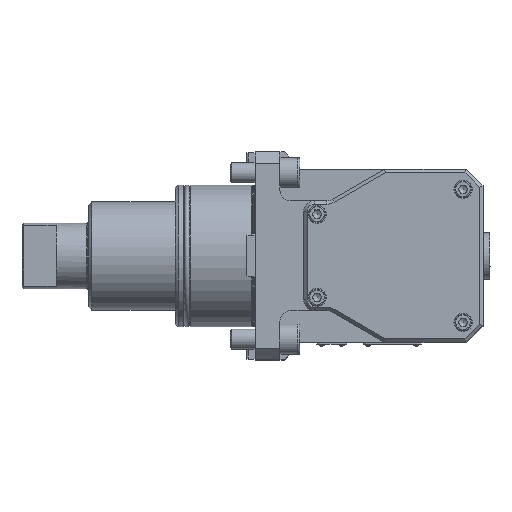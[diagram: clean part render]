
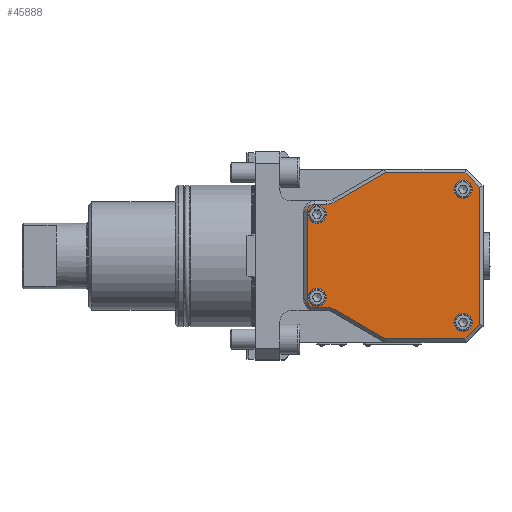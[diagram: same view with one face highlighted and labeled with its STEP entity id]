
A CAD part, top view. The second image highlights one B-rep face of the part: STEP entity #45888.
In plain terms, the highlighted planar face has unit normal (0, 0, 1).
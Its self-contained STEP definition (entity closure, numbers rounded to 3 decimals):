
#19514=VECTOR('',#31623,1.);
#19517=VECTOR('',#31628,1.);
#19518=VECTOR('',#31629,1.);
#19519=VECTOR('',#31630,1.);
#19520=VECTOR('',#31631,1.);
#19521=VECTOR('',#31632,1.);
#19522=VECTOR('',#31635,1.);
#19523=VECTOR('',#31638,1.);
#19524=VECTOR('',#31641,1.);
#19525=VECTOR('',#31644,1.);
#20632=LINE('',#35537,#19514);
#20635=LINE('',#35542,#19517);
#20636=LINE('',#35544,#19518);
#20637=LINE('',#35546,#19519);
#20638=LINE('',#35548,#19520);
#20639=LINE('',#35550,#19521);
#20640=LINE('',#35554,#19522);
#20641=LINE('',#35558,#19523);
#20642=LINE('',#35562,#19524);
#20643=LINE('',#35565,#19525);
#21977=ORIENTED_EDGE('',*,*,#27544,.F.);
#21978=ORIENTED_EDGE('',*,*,#27541,.F.);
#21979=ORIENTED_EDGE('',*,*,#27545,.F.);
#21980=ORIENTED_EDGE('',*,*,#27546,.F.);
#21981=ORIENTED_EDGE('',*,*,#27547,.F.);
#21982=ORIENTED_EDGE('',*,*,#27548,.F.);
#21983=ORIENTED_EDGE('',*,*,#27549,.F.);
#21984=ORIENTED_EDGE('',*,*,#27550,.F.);
#21985=ORIENTED_EDGE('',*,*,#27551,.F.);
#21986=ORIENTED_EDGE('',*,*,#27552,.F.);
#21987=ORIENTED_EDGE('',*,*,#27553,.F.);
#21988=ORIENTED_EDGE('',*,*,#27554,.F.);
#21989=ORIENTED_EDGE('',*,*,#27555,.F.);
#21990=ORIENTED_EDGE('',*,*,#27556,.F.);
#21991=ORIENTED_EDGE('',*,*,#27557,.F.);
#21992=ORIENTED_EDGE('',*,*,#27558,.F.);
#21993=ORIENTED_EDGE('',*,*,#27559,.F.);
#21994=ORIENTED_EDGE('',*,*,#27560,.F.);
#25553=CIRCLE('',#44058,8.5);
#25554=CIRCLE('',#44059,4.5);
#25555=CIRCLE('',#44060,4.5);
#25556=CIRCLE('',#44061,8.5);
#25557=CIRCLE('',#44062,5.5);
#25558=CIRCLE('',#44063,5.5);
#25559=CIRCLE('',#44064,5.5);
#25560=CIRCLE('',#44065,5.5);
#26224=VERTEX_POINT('',#35535);
#26225=VERTEX_POINT('',#35536);
#26226=VERTEX_POINT('',#35541);
#26227=VERTEX_POINT('',#35543);
#26228=VERTEX_POINT('',#35545);
#26229=VERTEX_POINT('',#35547);
#26230=VERTEX_POINT('',#35549);
#26231=VERTEX_POINT('',#35551);
#26232=VERTEX_POINT('',#35553);
#26233=VERTEX_POINT('',#35555);
#26234=VERTEX_POINT('',#35557);
#26235=VERTEX_POINT('',#35559);
#26236=VERTEX_POINT('',#35561);
#26237=VERTEX_POINT('',#35563);
#26238=VERTEX_POINT('',#35566);
#26239=VERTEX_POINT('',#35568);
#26240=VERTEX_POINT('',#35570);
#26241=VERTEX_POINT('',#35572);
#27541=EDGE_CURVE('',#26224,#26225,#20632,.T.);
#27544=EDGE_CURVE('',#26225,#26226,#20635,.T.);
#27545=EDGE_CURVE('',#26227,#26224,#20636,.T.);
#27546=EDGE_CURVE('',#26228,#26227,#20637,.T.);
#27547=EDGE_CURVE('',#26229,#26228,#20638,.T.);
#27548=EDGE_CURVE('',#26230,#26229,#20639,.T.);
#27549=EDGE_CURVE('',#26231,#26230,#25553,.T.);
#27550=EDGE_CURVE('',#26232,#26231,#20640,.T.);
#27551=EDGE_CURVE('',#26233,#26232,#25554,.T.);
#27552=EDGE_CURVE('',#26234,#26233,#20641,.T.);
#27553=EDGE_CURVE('',#26235,#26234,#25555,.T.);
#27554=EDGE_CURVE('',#26236,#26235,#20642,.T.);
#27555=EDGE_CURVE('',#26237,#26236,#25556,.T.);
#27556=EDGE_CURVE('',#26226,#26237,#20643,.T.);
#27557=EDGE_CURVE('',#26238,#26238,#25557,.T.);
#27558=EDGE_CURVE('',#26239,#26239,#25558,.T.);
#27559=EDGE_CURVE('',#26240,#26240,#25559,.T.);
#27560=EDGE_CURVE('',#26241,#26241,#25560,.T.);
#29328=EDGE_LOOP('',(#21977,#21978,#21979,#21980,#21981,#21982,#21983,#21984,
#21985,#21986,#21987,#21988,#21989,#21990));
#29329=EDGE_LOOP('',(#21991));
#29330=EDGE_LOOP('',(#21992));
#29331=EDGE_LOOP('',(#21993));
#29332=EDGE_LOOP('',(#21994));
#30345=FACE_BOUND('',#29328,.T.);
#30346=FACE_BOUND('',#29329,.T.);
#30347=FACE_BOUND('',#29330,.T.);
#30348=FACE_BOUND('',#29331,.T.);
#30349=FACE_BOUND('',#29332,.T.);
#31623=DIRECTION('',(-8.828,-8.828,0.));
#31626=DIRECTION('',(0.,0.,1.));
#31627=DIRECTION('',(0.,-1.,0.));
#31628=DIRECTION('',(-47.727,0.,0.));
#31629=DIRECTION('',(0.,-82.343,0.));
#31630=DIRECTION('',(8.828,-8.828,0.));
#31631=DIRECTION('',(47.727,0.,0.));
#31632=DIRECTION('',(30.937,17.861,0.));
#31633=DIRECTION('',(0.,0.,1.));
#31634=DIRECTION('',(0.,-8.5,0.));
#31635=DIRECTION('',(7.464,0.,0.));
#31636=DIRECTION('',(0.,0.,-1.));
#31637=DIRECTION('',(-4.5,0.,0.));
#31638=DIRECTION('',(0.,53.,0.));
#31639=DIRECTION('',(0.,0.,-1.));
#31640=DIRECTION('',(0.,-4.5,0.));
#31641=DIRECTION('',(-7.464,0.,0.));
#31642=DIRECTION('',(0.,0.,1.));
#31643=DIRECTION('',(4.25,7.361,0.));
#31644=DIRECTION('',(-30.937,17.861,0.));
#31645=DIRECTION('',(0.,0.,1.));
#31646=DIRECTION('',(5.5,0.,0.));
#31647=DIRECTION('',(0.,0.,1.));
#31648=DIRECTION('',(5.5,0.,0.));
#31649=DIRECTION('',(0.,0.,1.));
#31650=DIRECTION('',(0.,5.5,0.));
#31651=DIRECTION('',(0.,0.,1.));
#31652=DIRECTION('',(0.,5.5,0.));
#35535=CARTESIAN_POINT('',(135.,-41.172,86.099));
#35536=CARTESIAN_POINT('',(126.172,-50.,86.099));
#35537=CARTESIAN_POINT('',(135.,-41.172,86.099));
#35540=CARTESIAN_POINT('',(35.794,-33.,86.099));
#35541=CARTESIAN_POINT('',(78.445,-50.,86.099));
#35542=CARTESIAN_POINT('',(126.172,-50.,86.099));
#35543=CARTESIAN_POINT('',(135.,41.172,86.099));
#35544=CARTESIAN_POINT('',(135.,41.172,86.099));
#35545=CARTESIAN_POINT('',(126.172,50.,86.099));
#35546=CARTESIAN_POINT('',(126.172,50.,86.099));
#35547=CARTESIAN_POINT('',(78.445,50.,86.099));
#35548=CARTESIAN_POINT('',(78.445,50.,86.099));
#35549=CARTESIAN_POINT('',(47.508,32.139,86.099));
#35550=CARTESIAN_POINT('',(47.508,32.139,86.099));
#35551=CARTESIAN_POINT('',(43.258,31.,86.099));
#35552=CARTESIAN_POINT('',(43.258,39.5,86.099));
#35553=CARTESIAN_POINT('',(35.794,31.,86.099));
#35554=CARTESIAN_POINT('',(35.794,31.,86.099));
#35555=CARTESIAN_POINT('',(31.294,26.5,86.099));
#35556=CARTESIAN_POINT('',(35.794,26.5,86.099));
#35557=CARTESIAN_POINT('',(31.294,-26.5,86.099));
#35558=CARTESIAN_POINT('',(31.294,-26.5,86.099));
#35559=CARTESIAN_POINT('',(35.794,-31.,86.099));
#35560=CARTESIAN_POINT('',(35.794,-26.5,86.099));
#35561=CARTESIAN_POINT('',(43.258,-31.,86.099));
#35562=CARTESIAN_POINT('',(43.258,-31.,86.099));
#35563=CARTESIAN_POINT('',(47.508,-32.139,86.099));
#35564=CARTESIAN_POINT('',(43.258,-39.5,86.099));
#35565=CARTESIAN_POINT('',(78.445,-50.,86.099));
#35566=CARTESIAN_POINT('',(130.5,-40.,86.099));
#35567=CARTESIAN_POINT('',(125.,-40.,86.099));
#35568=CARTESIAN_POINT('',(130.5,40.,86.099));
#35569=CARTESIAN_POINT('',(125.,40.,86.099));
#35570=CARTESIAN_POINT('',(37.294,-19.5,86.099));
#35571=CARTESIAN_POINT('',(37.294,-25.,86.099));
#35572=CARTESIAN_POINT('',(37.294,30.5,86.099));
#35573=CARTESIAN_POINT('',(37.294,25.,86.099));
#44057=AXIS2_PLACEMENT_3D('',#35540,#31626,#31627);
#44058=AXIS2_PLACEMENT_3D('',#35552,#31633,#31634);
#44059=AXIS2_PLACEMENT_3D('',#35556,#31636,#31637);
#44060=AXIS2_PLACEMENT_3D('',#35560,#31639,#31640);
#44061=AXIS2_PLACEMENT_3D('',#35564,#31642,#31643);
#44062=AXIS2_PLACEMENT_3D('',#35567,#31645,#31646);
#44063=AXIS2_PLACEMENT_3D('',#35569,#31647,#31648);
#44064=AXIS2_PLACEMENT_3D('',#35571,#31649,#31650);
#44065=AXIS2_PLACEMENT_3D('',#35573,#31651,#31652);
#45361=PLANE('',#44057);
#45888=ADVANCED_FACE('',(#30345,#30346,#30347,#30348,#30349),#45361,.T.);
